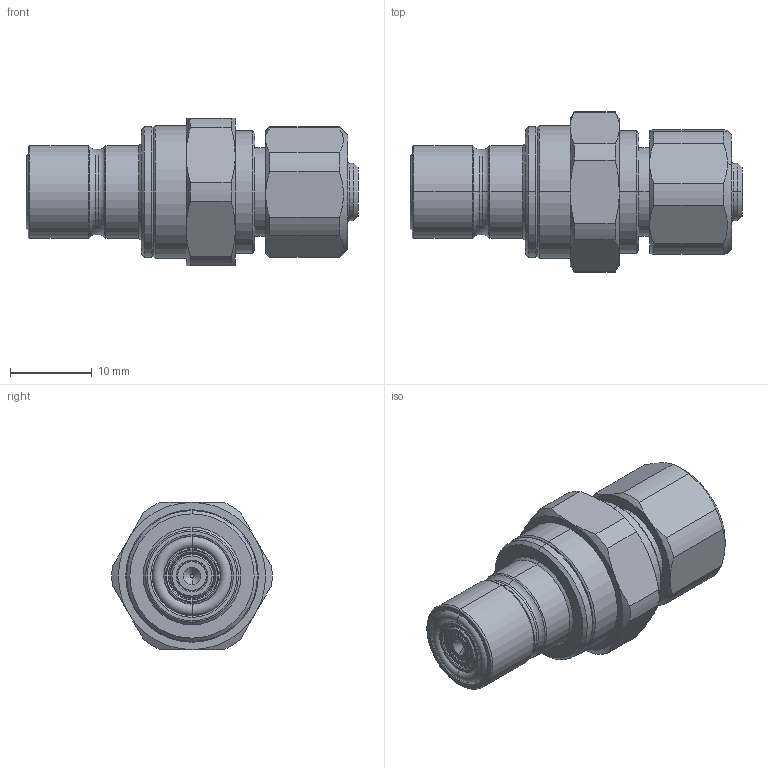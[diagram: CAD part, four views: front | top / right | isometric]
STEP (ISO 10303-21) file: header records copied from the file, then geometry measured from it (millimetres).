
FILE_DESCRIPTION (( 'STEP AP203' ), '1' );
FILE_NAME ('QD2-MT06X10.STEP', '2025-01-02T02:52:23', ( 'aksong' ), ( '' ), 'SwSTEP 2.0', 'SolidWorks 2012', '' );
FILE_SCHEMA (( 'CONFIG_CONTROL_DESIGN' ));
Length unit declared in the file: millimetre
Products named in the file (4): male body; QD2-MT06X10; Compression 6X10, Male 喻闌; Compression 6X10 cap nut
Assembly tree (3 placements, depth 2):
  QD2-MT06X10
    male body
    Compression 6X10, Male 喻闌
    Compression 6X10 cap nut
Bounding box: 40.58 x 19.59 x 18 mm (x, y, z)
Volume: 5675 mm3; surface area: 4245.8 mm2
Topology: 3 solids, 3 shells, 240 faces, 500 edges, 282 vertices
Faces by surface type: cone 102, cylinder 82, plane 34, torus 22
Entity records: 6880 total; most frequent: CARTESIAN_POINT 1264, DIRECTION 1226, ORIENTED_EDGE 1000, AXIS2_PLACEMENT_3D 524, EDGE_CURVE 500, VERTEX_POINT 282, CIRCLE 278, EDGE_LOOP 260
